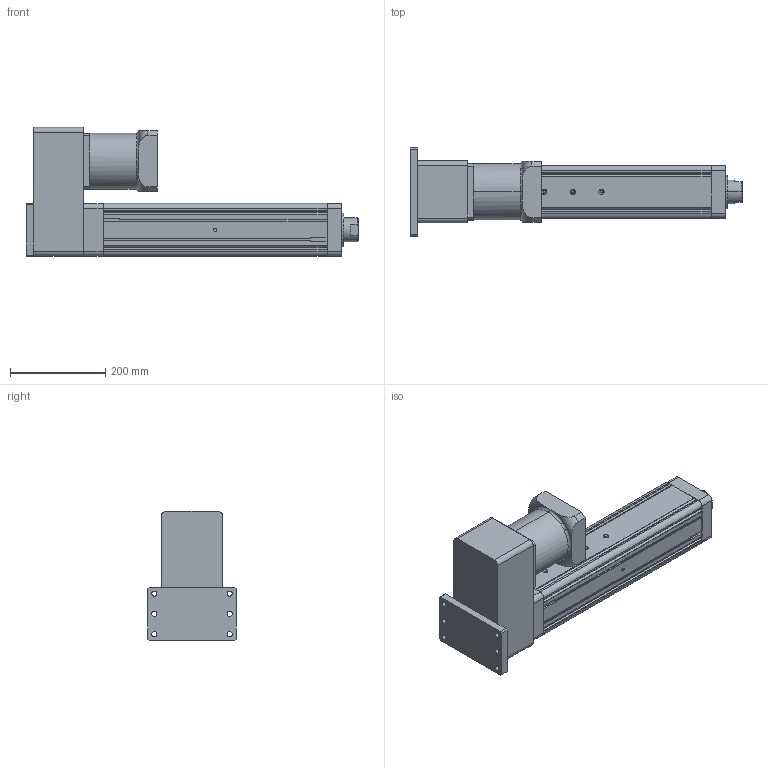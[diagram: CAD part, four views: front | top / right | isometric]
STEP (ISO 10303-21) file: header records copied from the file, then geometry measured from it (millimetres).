
FILE_DESCRIPTION (( 'STEP AP203' ), '1' );
FILE_NAME ('YRJ110-L300-H4K2.STEP', '2020-01-06T01:49:36', ( 'User' ), ( 'China' ), 'SwSTEP 2.0', 'SolidWorks 2016', '' );
FILE_SCHEMA (( 'CONFIG_CONTROL_DESIGN' ));
Length unit declared in the file: millimetre
Products named in the file (8): H5-110-1; 萇儂碟-110; H3-110-2; H4-110; 120遺1500W珨撰熬厒儂; K2-110; YRJ110-L300-H4K2; 095-100俴最倰第
Assembly tree (7 placements, depth 2):
  YRJ110-L300-H4K2
    095-100俴最倰第
    H5-110-1
    萇儂碟-110
    H3-110-2
    H4-110
    120遺1500W珨撰熬厒儂
    K2-110
Bounding box: 697 x 185 x 271 mm (x, y, z)
Volume: 8629318.5 mm3; surface area: 831151 mm2
Topology: 7 solids, 7 shells, 320 faces, 865 edges, 553 vertices
Faces by surface type: plane 160, cylinder 122, cone 29, torus 5, bspline 4
Entity records: 11223 total; most frequent: CARTESIAN_POINT 2196, DIRECTION 1739, ORIENTED_EDGE 1698, EDGE_CURVE 849, AXIS2_PLACEMENT_3D 602, VERTEX_POINT 553, VECTOR 535, LINE 535
